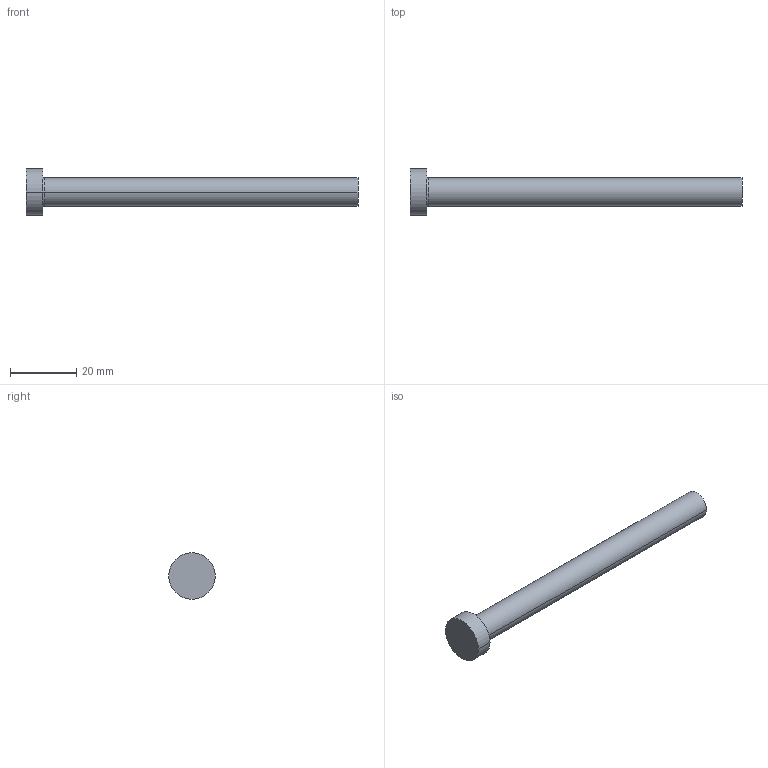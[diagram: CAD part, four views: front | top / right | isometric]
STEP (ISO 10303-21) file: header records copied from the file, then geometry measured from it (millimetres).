
FILE_DESCRIPTION (( 'STEP AP214' ), '1' );
FILE_NAME ('A-8,5x100.STEP', '2020-05-29T15:49:54', ( 'August' ), ( '' ), 'SwSTEP 2.0', 'SolidWorks 2018', '' );
FILE_SCHEMA (( 'AUTOMOTIVE_DESIGN' ));
Length unit declared in the file: millimetre
Products named in the file (1): A-8,5x100
Bounding box: 100 x 14 x 14 mm (x, y, z)
Volume: 6161.9 mm3; surface area: 3059 mm2
Topology: 1 solids, 1 shells, 9 faces, 16 edges, 10 vertices
Faces by surface type: cylinder 4, plane 3, torus 2
Entity records: 260 total; most frequent: DIRECTION 48, CARTESIAN_POINT 36, ORIENTED_EDGE 32, AXIS2_PLACEMENT_3D 22, EDGE_CURVE 16, CIRCLE 12, EDGE_LOOP 10, VERTEX_POINT 10
